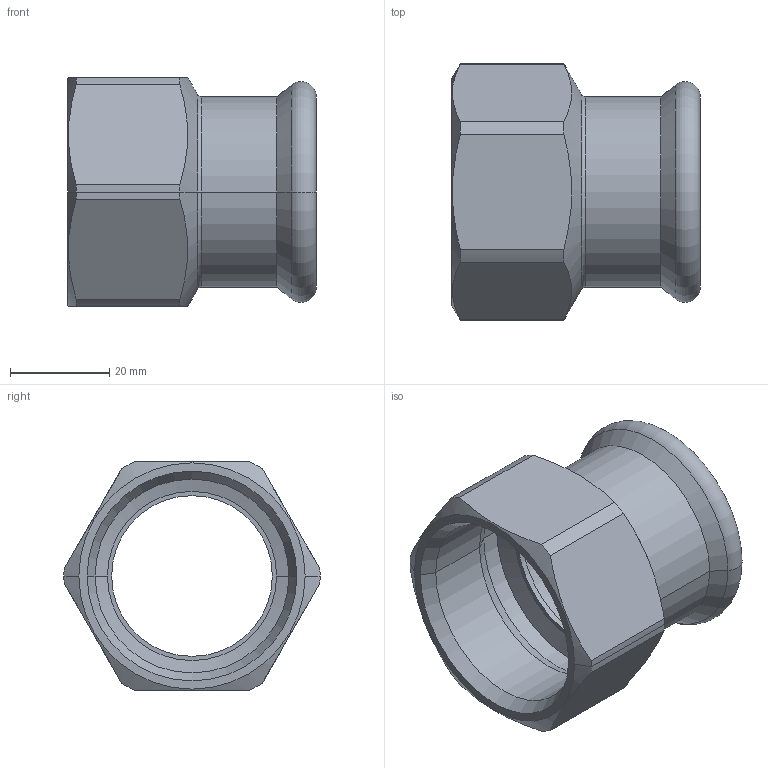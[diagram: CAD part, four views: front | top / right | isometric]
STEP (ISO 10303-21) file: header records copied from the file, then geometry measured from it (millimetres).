
FILE_DESCRIPTION(('CoCreate Modeling STEP Export'),'2;1');
FILE_NAME('C1402 35xRP1 1-4.stp','2015-08-10T15:30:22',(''),(''),'CoCreate Modeling STEP processor for AP214 (Solid Model)','CoCreate Modeling 17.00A 17-Jun-2010 (C) Parametric Technology GmbH','');
FILE_SCHEMA(('AUTOMOTIVE_DESIGN { 1 0 10303 214 1 1 1 1 }'));
Length unit declared in the file: millimetre
Products named in the file (1): C1402-35xRP1-1-4
Bounding box: 50 x 51.5 x 46 mm (x, y, z)
Volume: 21336.7 mm3; surface area: 14836.6 mm2
Topology: 1 solids, 1 shells, 44 faces, 100 edges, 60 vertices
Faces by surface type: cylinder 18, cone 12, plane 10, torus 4
Entity records: 1952 total; most frequent: CARTESIAN_POINT 1091, ORIENTED_EDGE 200, DIRECTION 130, EDGE_CURVE 100, VERTEX_POINT 60, EDGE_LOOP 48, AXIS2_PLACEMENT_3D 47, FACE_OUTER_BOUND 44
